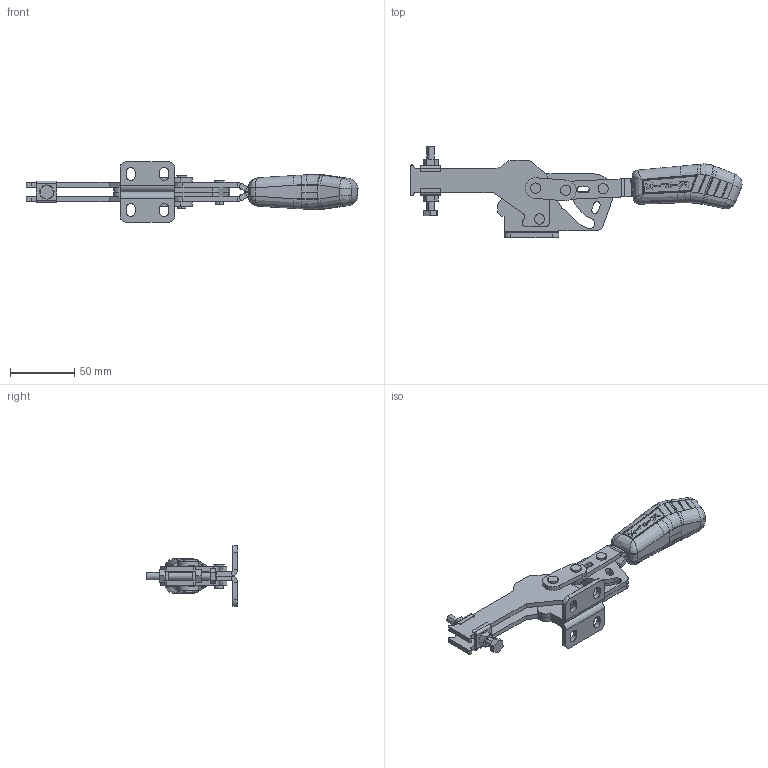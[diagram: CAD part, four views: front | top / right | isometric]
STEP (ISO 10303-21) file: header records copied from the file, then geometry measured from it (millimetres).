
FILE_DESCRIPTION (( 'STEP AP203' ), '1' );
FILE_NAME ('KF-527 D.STEP', '2022-07-06T13:45:19', ( '' ), ( '' ), 'SwSTEP 2.0', 'SolidWorks 2021', '' );
FILE_SCHEMA (( 'CONFIG_CONTROL_DESIGN' ));
Length unit declared in the file: millimetre
Products named in the file (13): tirante_527; cabo_527; base_527; KF-527 D; 12.50024; base_527_esquerda; 14.10004; 06.50015; cabo_527_equerda; 11.50001; 07.60001; 06.50018; haste_527
Assembly tree (18 placements, depth 2):
  KF-527 D
    base_527
    base_527_esquerda
    haste_527  x2
    tirante_527  x2
    cabo_527
    cabo_527_equerda
    07.60001
    14.10004  x2
    12.50024
    11.50001  x2
    06.50018  x2
    06.50015  x2
Bounding box: 257.72 x 70.99 x 46.98 mm (x, y, z)
Volume: 114109.3 mm3; surface area: 61500.9 mm2
Topology: 18 solids, 18 shells, 742 faces, 1871 edges, 1180 vertices
Faces by surface type: plane 314, cylinder 253, bspline 126, cone 46, torus 3
Entity records: 24217 total; most frequent: CARTESIAN_POINT 8602, ORIENTED_EDGE 3210, DIRECTION 2511, EDGE_CURVE 1605, VERTEX_POINT 1022, AXIS2_PLACEMENT_3D 893, LINE 725, VECTOR 725
